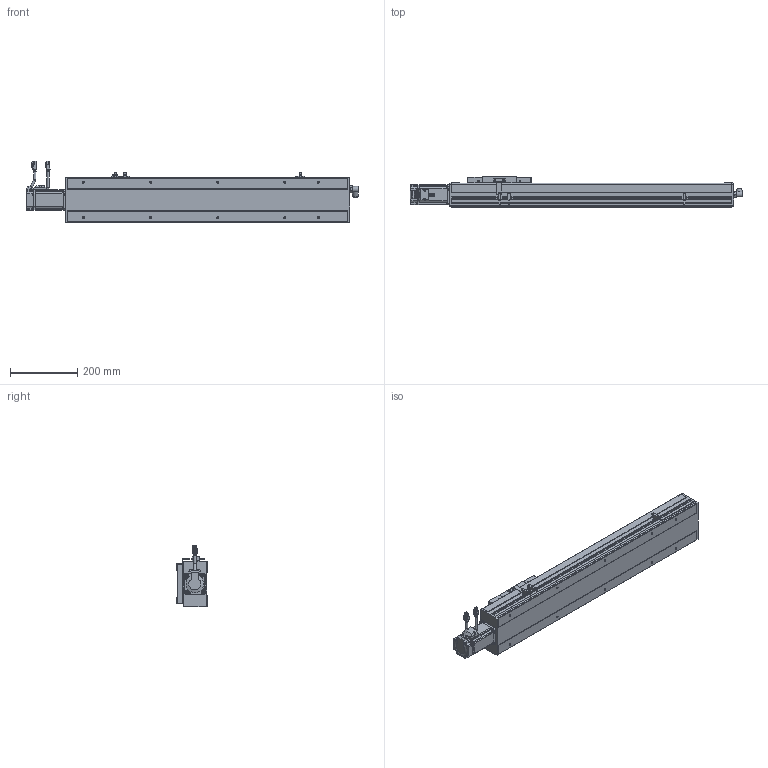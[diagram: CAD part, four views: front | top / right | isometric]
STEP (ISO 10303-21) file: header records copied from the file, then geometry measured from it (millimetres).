
FILE_DESCRIPTION(/* description */ ('STEP AP214'),/* implementation_level */ '2;1');
FILE_NAME(/* name */ 'PSC140-L05-S550-BC-P40-C1-N(0)',/* time_stamp */ '2022-06-13T03:14:41+02:00',/* author */ ('License CC BY-ND 4.0'),/* organization */ ('CADENAS'),/* preprocessor_version */ 'ST-DEVELOPER v18.102',/* originating_system */ 'PARTsolutions',/* authorisation */ ' ');
FILE_SCHEMA (('AUTOMOTIVE_DESIGN {1 0 10303 214 3 1 1}'));
Length unit declared in the file: millimetre
Products named in the file (10): PSC140-L05-S550-BC-P40-C1-N(0); P40-s2; P40-c2; P40-s1; P40-c1; P40-p1; PSC140-sensor; PSC140-BC-SLIDER; PSC140-S550-BC-P40-C1_BODY1; PSC140-L05-S550-BC-P40-C1-N(0)_dummy
Assembly tree (11 placements, depth 2):
  PSC140-L05-S550-BC-P40-C1-N(0)
    P40-s2
    P40-c2
    P40-s1
    P40-c1
    P40-p1
    PSC140-sensor  x3
    PSC140-BC-SLIDER
    PSC140-S550-BC-P40-C1_BODY1
    PSC140-L05-S550-BC-P40-C1-N(0)_dummy
Bounding box: 989 x 91 x 182.48 mm (x, y, z)
Volume: 8775092.8 mm3; surface area: 537619.9 mm2
Topology: 10 solids, 10 shells, 1244 faces, 3210 edges, 2121 vertices
Faces by surface type: plane 864, cylinder 315, cone 46, torus 19
Full cylindrical faces by diameter (mm): 1 x8, 2.6 x10, 2.8 x3, 3.3 x8, 4.5 x12, 4.6 x3, 4.917 x14, 5 x4, 5.5 x8, 6 x10, 6.08 x4, 7 x10, 9 x2, 10 x1, 11 x1, 13.74 x1, 14 x1, 16.4 x2, 16.5 x1, 19.98 x1, 31.98 x1, 35.5 x1, 50 x2
Entity records: 34358 total; most frequent: CARTESIAN_POINT 6001, DIRECTION 5779, ORIENTED_EDGE 5570, EDGE_CURVE 2785, LINE 2109, VECTOR 2109, VERTEX_POINT 1942, AXIS2_PLACEMENT_3D 1835
